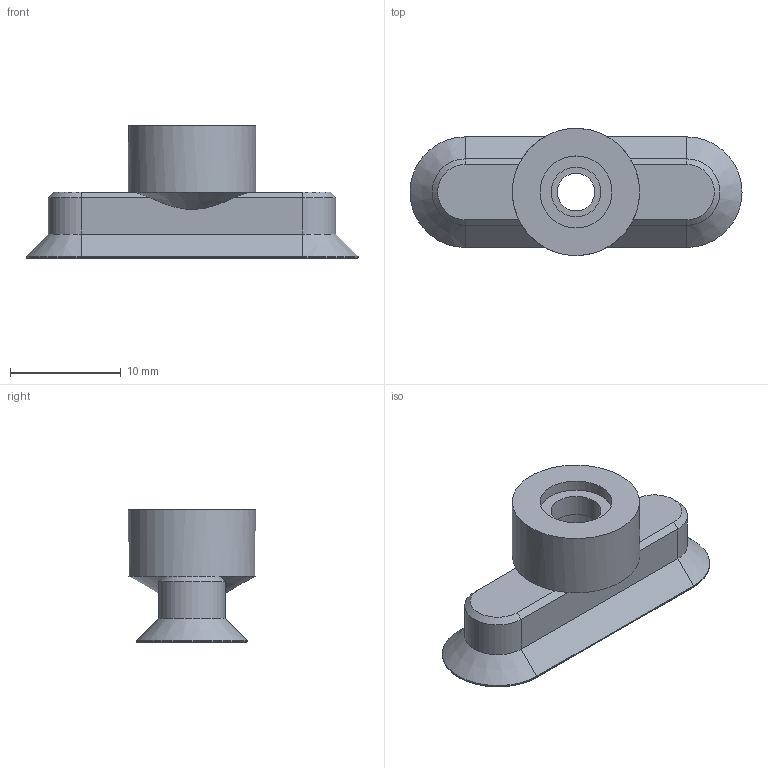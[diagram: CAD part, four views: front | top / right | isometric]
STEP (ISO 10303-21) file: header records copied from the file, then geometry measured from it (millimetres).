
FILE_DESCRIPTION((''),'2;1');
FILE_NAME('\\fipa-srv\DataWarehouse\Technik\Konstruktion\CAD-Daten\Vakuumsauger\132_\132.30x10.018\132.30x10.018_Kd.stp','2012-05-09T09:57:07',('MOswald'),(''),'Autodesk Inventor 2012','Autodesk Inventor 2012','');
FILE_SCHEMA(('AUTOMOTIVE_DESIGN { 1 0 10303 214 1 1 1 1 }'));
Length unit declared in the file: millimetre
Products named in the file (1): 132.30x10
Bounding box: 30 x 11.49 x 12 mm (x, y, z)
Volume: 1156.2 mm3; surface area: 1310.3 mm2
Topology: 1 solids, 1 shells, 41 faces, 83 edges, 47 vertices
Faces by surface type: plane 19, cylinder 11, cone 8, torus 3
Full cylindrical faces by diameter (mm): 3.4 x1, 4.5 x1, 6.5 x2, 11.5 x1
Entity records: 1034 total; most frequent: DIRECTION 186, CARTESIAN_POINT 176, ORIENTED_EDGE 152, EDGE_CURVE 76, AXIS2_PLACEMENT_3D 74, EDGE_LOOP 52, VERTEX_POINT 46, FACE_OUTER_BOUND 41
